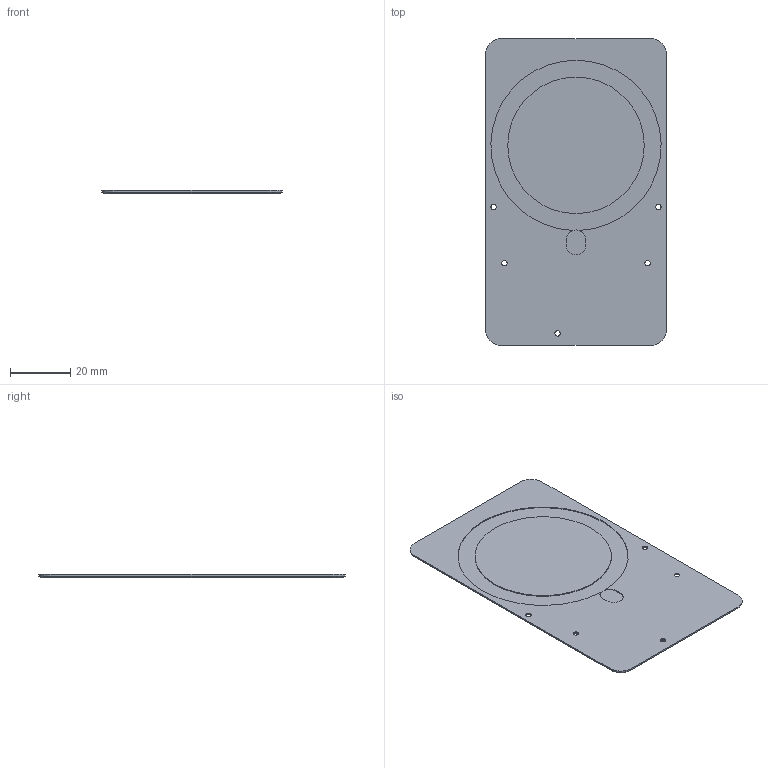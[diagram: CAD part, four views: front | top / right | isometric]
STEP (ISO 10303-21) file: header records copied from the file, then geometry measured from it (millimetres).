
FILE_DESCRIPTION(('Open CASCADE Model'),'2;1');
FILE_NAME('Open CASCADE Shape Model','2026-10-10T13:06:12',('Author'),( 'Open CASCADE'),'Open CASCADE STEP processor 8.0','build123d', 'Unknown');
FILE_SCHEMA(('AUTOMOTIVE_DESIGN { 1 0 10303 214 1 1 1 1 }'));
Length unit declared in the file: millimetre
Products named in the file (1): COMPOUND
Bounding box: 60 x 102 x 1 mm (x, y, z)
Volume: 5755.2 mm3; surface area: 12516.4 mm2
Topology: 1 solids, 1 shells, 37 faces, 86 edges, 53 vertices
Faces by surface type: plane 15, cylinder 13, cone 9
Full cylindrical faces by diameter (mm): 1.8 x5, 45.4 x1
Entity records: 2213 total; most frequent: CARTESIAN_POINT 445, DIRECTION 335, ORIENTED_EDGE 172, PCURVE 172, DEFINITIONAL_REPRESENTATION 172, LINE 169, VECTOR 169, EDGE_CURVE 86
